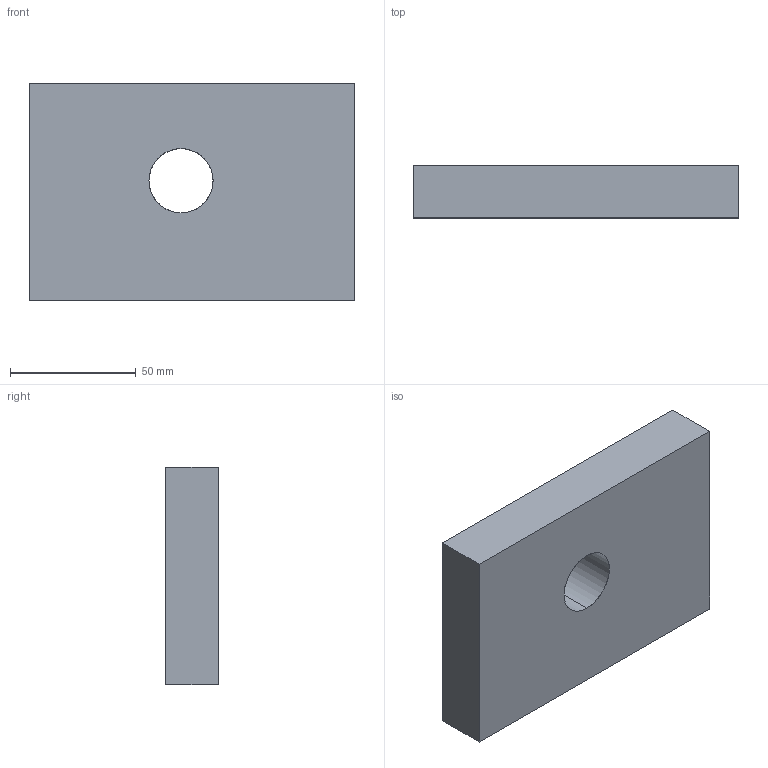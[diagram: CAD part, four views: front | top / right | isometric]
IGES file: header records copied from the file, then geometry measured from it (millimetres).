
Start section: SolidWorks IGES file using analytic representation for surfaces
Global section: file name: C:\Documents and Settings\Pedro Santana.SANTANA2\My Documents\SP\Products\Advanced Concepts\Advanced Concepts - Parts\SW Files\Surfaces - Planar.IGS; native system: SolidWorks 2005 by SolidWorks Corporation; preprocessor: SolidWorks 2005 by SolidWorks Corporation; author: Pedro Santana; date: 050621.055210; units: inch
Bounding box: 129.59 x 20.77 x 86.63 mm (x, y, z)
Surface area: 21359.5 mm2 (no closed solid volume)
Topology: 0 solids, 0 shells, 7 faces, 60 edges, 60 vertices
Faces by surface type: bspline 5, revolution 2
